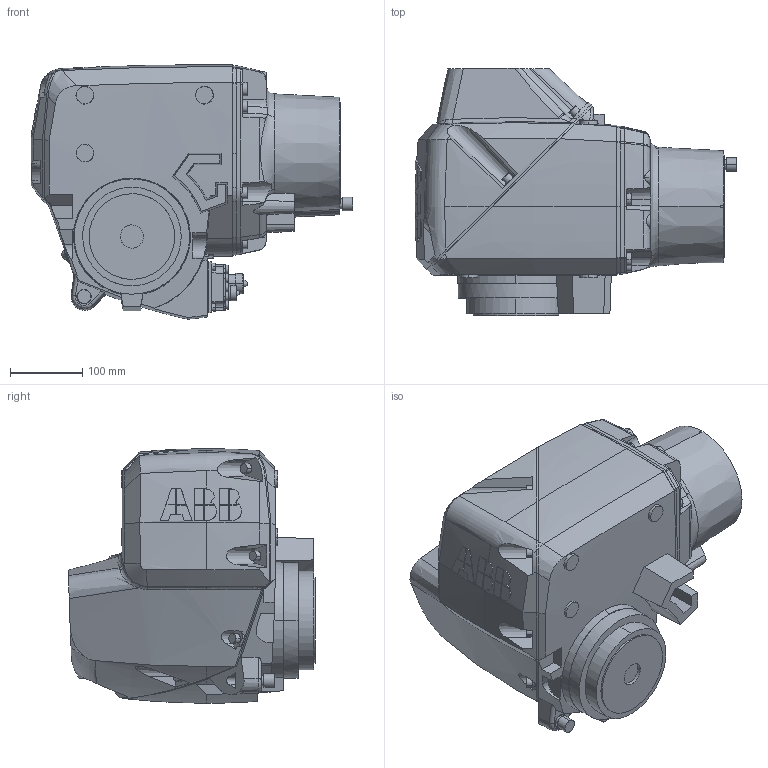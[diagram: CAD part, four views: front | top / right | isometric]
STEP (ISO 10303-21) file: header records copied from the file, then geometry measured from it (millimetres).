
FILE_DESCRIPTION (( 'STEP AP214' ), '1' );
FILE_NAME ('IRB2600-TYPEC_12kg-165_LINK3_CAD_rev00.STEP', '2018-06-26T04:33:23', ( 'ABB' ), ( 'ABB' ), 'SwSTEP 2.0', 'SolidWorks 2016', '' );
FILE_SCHEMA (( 'AUTOMOTIVE_DESIGN' ));
Length unit declared in the file: millimetre
Products named in the file (1): IRB2600-TYPEC_12kg-165_LINK3_CAD_rev00
Bounding box: 444.23 x 340.67 x 351.15 mm (x, y, z)
Volume: 23615927.1 mm3; surface area: 592473.5 mm2
Topology: 1 solids, 1 shells, 717 faces, 2034 edges, 1390 vertices
Faces by surface type: plane 342, cylinder 159, cone 106, bspline 96, torus 14
Entity records: 58255 total; most frequent: CARTESIAN_POINT 41491, ORIENTED_EDGE 4048, EDGE_CURVE 2024, DIRECTION 1972, VERTEX_POINT 1390, B_SPLINE_CURVE_WITH_KNOTS 1351, EDGE_LOOP 798, ADVANCED_FACE 717
